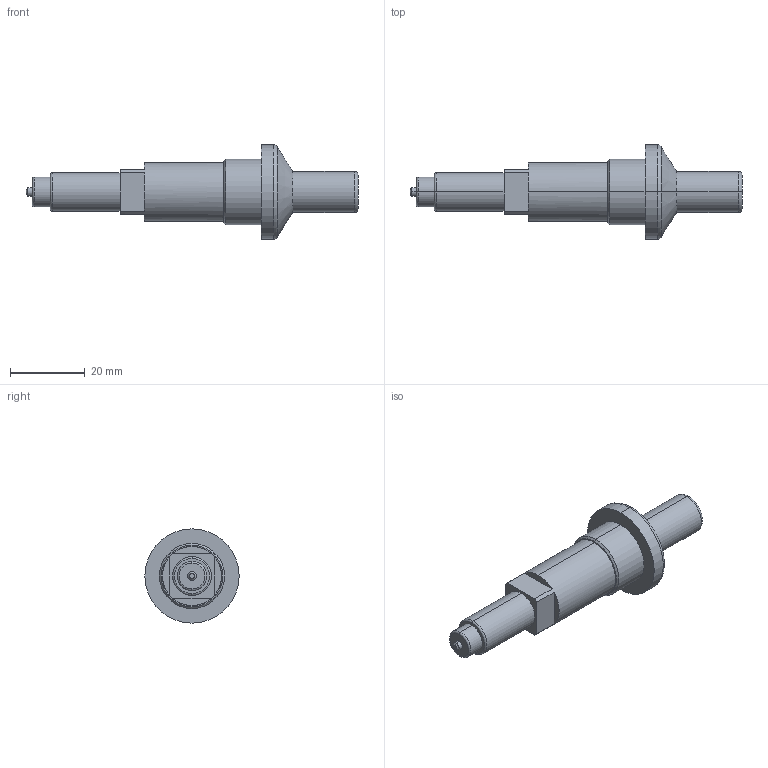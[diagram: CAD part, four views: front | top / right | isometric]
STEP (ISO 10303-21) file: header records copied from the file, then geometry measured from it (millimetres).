
FILE_DESCRIPTION (( 'STEP AP203' ), '1' );
FILE_NAME ('Piezo-Zünder.STEP', '2020-12-15T00:52:00', ( '' ), ( '' ), 'SwSTEP 2.0', 'SolidWorks 2017', '' );
FILE_SCHEMA (( 'CONFIG_CONTROL_DESIGN' ));
Length unit declared in the file: millimetre
Products named in the file (1): Piezo-Zünder
Bounding box: 89 x 25.25 x 25.25 mm (x, y, z)
Volume: 14191.4 mm3; surface area: 4590.6 mm2
Topology: 1 solids, 1 shells, 43 faces, 92 edges, 56 vertices
Faces by surface type: plane 15, cylinder 14, torus 8, cone 6
Entity records: 1251 total; most frequent: DIRECTION 236, CARTESIAN_POINT 192, ORIENTED_EDGE 184, AXIS2_PLACEMENT_3D 100, EDGE_CURVE 92, VERTEX_POINT 56, CIRCLE 56, EDGE_LOOP 48
